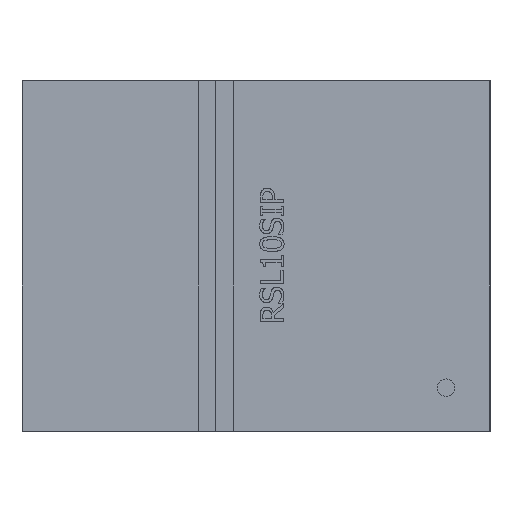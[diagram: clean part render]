
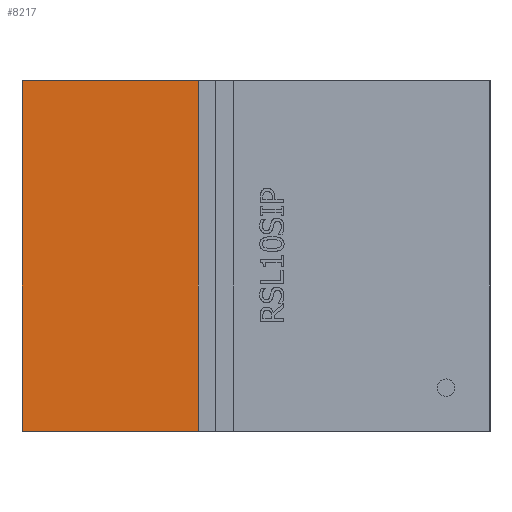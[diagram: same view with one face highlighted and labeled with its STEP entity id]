
A CAD part, top view. The second image highlights one B-rep face of the part: STEP entity #8217.
In plain terms, the highlighted planar face has unit normal (0, 0, 1).
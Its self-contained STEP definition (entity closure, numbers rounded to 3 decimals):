
#842=FACE_OUTER_BOUND('',#1346,.T.);
#1346=EDGE_LOOP('',(#6774,#6775,#6776,#6777));
#2204=LINE('',#12213,#3204);
#2210=LINE('',#12224,#3210);
#2214=LINE('',#12232,#3214);
#2217=LINE('',#12237,#3217);
#3204=VECTOR('',#10231,10.);
#3210=VECTOR('',#10241,10.);
#3214=VECTOR('',#10247,10.);
#3217=VECTOR('',#10254,10.);
#3978=VERTEX_POINT('',#12211);
#3979=VERTEX_POINT('',#12212);
#3982=VERTEX_POINT('',#12223);
#3985=VERTEX_POINT('',#12231);
#4952=EDGE_CURVE('',#3978,#3979,#2204,.T.);
#4958=EDGE_CURVE('',#3982,#3978,#2210,.T.);
#4962=EDGE_CURVE('',#3985,#3982,#2214,.T.);
#4965=EDGE_CURVE('',#3979,#3985,#2217,.T.);
#6774=ORIENTED_EDGE('',*,*,#4952,.T.);
#6775=ORIENTED_EDGE('',*,*,#4965,.T.);
#6776=ORIENTED_EDGE('',*,*,#4962,.T.);
#6777=ORIENTED_EDGE('',*,*,#4958,.T.);
#7878=PLANE('',#8838);
#8217=ADVANCED_FACE('',(#842),#7878,.T.);
#8838=AXIS2_PLACEMENT_3D('',#12236,#10252,#10253);
#10231=DIRECTION('',(0.,1.,0.));
#10241=DIRECTION('',(1.,0.,0.));
#10247=DIRECTION('',(0.,-1.,0.));
#10252=DIRECTION('center_axis',(0.,0.,1.));
#10253=DIRECTION('ref_axis',(1.,0.,0.));
#10254=DIRECTION('',(-1.,0.,0.));
#12211=CARTESIAN_POINT('',(1.313,-3.,1.2));
#12212=CARTESIAN_POINT('',(1.313,3.,1.2));
#12213=CARTESIAN_POINT('',(1.313,-1.5,1.2));
#12223=CARTESIAN_POINT('',(-1.703,-3.,1.2));
#12224=CARTESIAN_POINT('',(6.298,-3.,1.2));
#12231=CARTESIAN_POINT('',(-1.703,3.,1.2));
#12232=CARTESIAN_POINT('',(-1.703,-3.,1.2));
#12236=CARTESIAN_POINT('Origin',(2.298,0.,1.2));
#12237=CARTESIAN_POINT('',(-1.703,3.,1.2));
